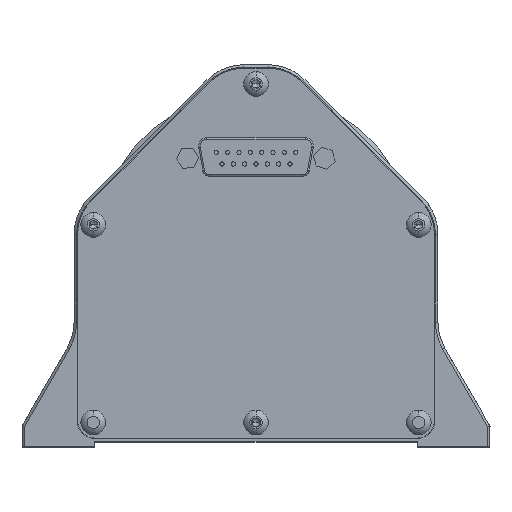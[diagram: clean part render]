
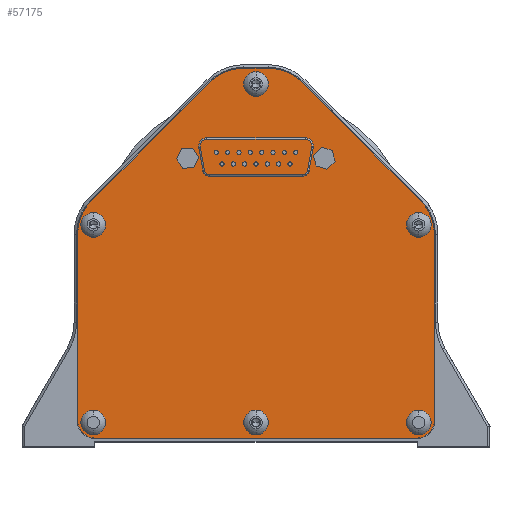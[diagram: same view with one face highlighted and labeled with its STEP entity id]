
A CAD part, top view. The second image highlights one B-rep face of the part: STEP entity #57175.
In plain terms, the highlighted planar face has unit normal (0, 0, 1).
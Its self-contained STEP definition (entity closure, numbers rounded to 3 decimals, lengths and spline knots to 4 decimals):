
#648 = LINE ( 'NONE', #42855, #59649 ) ;
#1739 = EDGE_CURVE ( 'Defeatured_115_12+Defeatured_115_3+Defeatured_115_2+Defeatured_115_4', #17063, #16191, #648, .T. ) ;
#2978 = AXIS2_PLACEMENT_3D ( 'NONE', #89169, #35401, #80404 ) ;
#3124 = DIRECTION ( 'NONE',  ( -1., 0., 0. ) ) ;
#3765 = DIRECTION ( 'NONE',  ( 1., 0., 0. ) ) ;
#4592 = CARTESIAN_POINT ( 'NONE',  ( 1.715, -1.6284, 1.3984 ) ) ;
#4968 = VERTEX_POINT ( 'NONE', #53855 ) ;
#6946 = CARTESIAN_POINT ( 'NONE',  ( 0.1179, 1.7566, 1.3984 ) ) ;
#7233 = VERTEX_POINT ( 'NONE', #70488 ) ;
#7416 = ORIENTED_EDGE ( 'NONE', *, *, #1739, .T. ) ;
#8020 = EDGE_CURVE ( 'Defeatured_115_12+Defeatured_115_0+Defeatured_115_11+Defeatured_115_1', #67972, #7233, #82298, .T. ) ;
#8319 = CARTESIAN_POINT ( 'NONE',  ( -1.545, -1.6284, 1.3984 ) ) ;
#11830 = VECTOR ( 'NONE', #50170, 39.3701 ) ;
#12155 = DIRECTION ( 'NONE',  ( 0., 0., 1. ) ) ;
#13177 = DIRECTION ( 'NONE',  ( 0., 0., 1. ) ) ;
#13330 = VECTOR ( 'NONE', #60167, 39.3701 ) ;
#13370 = DIRECTION ( 'NONE',  ( 1., 0., 0. ) ) ;
#13497 = DIRECTION ( 'NONE',  ( 1., 0., 0. ) ) ;
#13728 = EDGE_CURVE ( 'Defeatured_115_12+Defeatured_115_6+Defeatured_115_5+Defeatured_115_7', #69955, #14049, #58465, .T. ) ;
#14049 = VERTEX_POINT ( 'NONE', #4592 ) ;
#15144 = ORIENTED_EDGE ( 'NONE', *, *, #46906, .T. ) ;
#16191 = VERTEX_POINT ( 'NONE', #58778 ) ;
#17063 = VERTEX_POINT ( 'NONE', #63802 ) ;
#18144 = LINE ( 'NONE', #21198, #13330 ) ;
#18783 = ORIENTED_EDGE ( 'NONE', *, *, #28484, .T. ) ;
#18968 = VERTEX_POINT ( 'NONE', #80901 ) ;
#20578 = ORIENTED_EDGE ( 'NONE', *, *, #94846, .T. ) ;
#20923 = DIRECTION ( 'NONE',  ( 0., 0., 1. ) ) ;
#21198 = CARTESIAN_POINT ( 'NONE',  ( -1.545, -1.7984, 1.3984 ) ) ;
#21271 = DIRECTION ( 'NONE',  ( 1., 0., 0. ) ) ;
#22262 = CARTESIAN_POINT ( 'NONE',  ( 0.4467, 1.6204, 1.3984 ) ) ;
#23241 = CARTESIAN_POINT ( 'NONE',  ( 1.25, 0.1595, 1.3984 ) ) ;
#23384 = LINE ( 'NONE', #71708, #43843 ) ;
#23673 = ORIENTED_EDGE ( 'NONE', *, *, #77668, .T. ) ;
#24318 = VECTOR ( 'NONE', #95972, 39.3701 ) ;
#24922 = VERTEX_POINT ( 'NONE', #22262 ) ;
#26669 = PLANE ( 'NONE',  #2978 ) ;
#27306 = VERTEX_POINT ( 'NONE', #6946 ) ;
#28325 = AXIS2_PLACEMENT_3D ( 'NONE', #23241, #20923, #13497 ) ;
#28484 = EDGE_CURVE ( 'Defeatured_115_12+Defeatured_115_1+Defeatured_115_0+Defeatured_115_2', #7233, #18968, #69615, .T. ) ;
#29271 = CARTESIAN_POINT ( 'NONE',  ( -1.25, 0.1595, 1.3984 ) ) ;
#34731 = EDGE_CURVE ( 'Defeatured_115_12+Defeatured_115_11+Defeatured_115_10+Defeatured_115_0', #27306, #67972, #23384, .T. ) ;
#34928 = CIRCLE ( 'NONE', #49438, 0.465 ) ;
#35401 = DIRECTION ( 'NONE',  ( 0., 0., 1. ) ) ;
#39782 = CARTESIAN_POINT ( 'NONE',  ( 1.545, -1.7984, 1.3984 ) ) ;
#40428 = VERTEX_POINT ( 'NONE', #72481 ) ;
#42855 = CARTESIAN_POINT ( 'NONE',  ( -1.715, 0.1595, 1.3984 ) ) ;
#43011 = FACE_OUTER_BOUND ( 'NONE', #96361, .T. ) ;
#43843 = VECTOR ( 'NONE', #3124, 39.3701 ) ;
#43890 = CIRCLE ( 'NONE', #28325, 0.465 ) ;
#44302 = CIRCLE ( 'NONE', #77044, 0.17 ) ;
#44966 = ORIENTED_EDGE ( 'NONE', *, *, #34731, .T. ) ;
#45638 = CARTESIAN_POINT ( 'NONE',  ( 0.1179, 1.2916, 1.3984 ) ) ;
#46046 = EDGE_CURVE ( 'Defeatured_115_12+Defeatured_115_10+Defeatured_115_9+Defeatured_115_11', #24922, #27306, #34928, .T. ) ;
#46906 = EDGE_CURVE ( 'Defeatured_115_12+Defeatured_115_4+Defeatured_115_3+Defeatured_115_5', #16191, #40428, #44302, .T. ) ;
#47363 = AXIS2_PLACEMENT_3D ( 'NONE', #83621, #60515, #98765 ) ;
#48628 = AXIS2_PLACEMENT_3D ( 'NONE', #29271, #13177, #21271 ) ;
#49438 = AXIS2_PLACEMENT_3D ( 'NONE', #45638, #52354, #13370 ) ;
#49967 = CARTESIAN_POINT ( 'NONE',  ( 1.5788, 0.4883, 1.3984 ) ) ;
#50170 = DIRECTION ( 'NONE',  ( -0.707, -0.707, 0. ) ) ;
#50882 = EDGE_CURVE ( 'Defeatured_115_12+Defeatured_115_7+Defeatured_115_6+Defeatured_115_8', #14049, #73621, #83131, .T. ) ;
#52354 = DIRECTION ( 'NONE',  ( 0., 0., 1. ) ) ;
#53855 = CARTESIAN_POINT ( 'NONE',  ( 1.5788, 0.4883, 1.3984 ) ) ;
#55170 = EDGE_CURVE ( 'Defeatured_115_12+Defeatured_115_2+Defeatured_115_1+Defeatured_115_3', #18968, #17063, #91414, .T. ) ;
#57175 = ADVANCED_FACE ( 'Defeatured_115_12', ( #43011 ), #26669, .T. ) ;
#58465 = CIRCLE ( 'NONE', #47363, 0.17 ) ;
#58730 = DIRECTION ( 'NONE',  ( 0., -1., 0. ) ) ;
#58778 = CARTESIAN_POINT ( 'NONE',  ( -1.715, -1.6284, 1.3984 ) ) ;
#59649 = VECTOR ( 'NONE', #58730, 39.3701 ) ;
#60167 = DIRECTION ( 'NONE',  ( 1., 0., 0. ) ) ;
#60515 = DIRECTION ( 'NONE',  ( 0., 0., 1. ) ) ;
#60660 = CARTESIAN_POINT ( 'NONE',  ( 1.715, -1.6284, 1.3984 ) ) ;
#62126 = DIRECTION ( 'NONE',  ( 1., 0., 0. ) ) ;
#63802 = CARTESIAN_POINT ( 'NONE',  ( -1.715, 0.1595, 1.3984 ) ) ;
#65395 = ORIENTED_EDGE ( 'NONE', *, *, #46046, .T. ) ;
#67506 = AXIS2_PLACEMENT_3D ( 'NONE', #73325, #12155, #3765 ) ;
#67972 = VERTEX_POINT ( 'NONE', #71178 ) ;
#68680 = DIRECTION ( 'NONE',  ( 0., 1., 0. ) ) ;
#69615 = LINE ( 'NONE', #95518, #11830 ) ;
#69955 = VERTEX_POINT ( 'NONE', #39782 ) ;
#70488 = CARTESIAN_POINT ( 'NONE',  ( -0.4467, 1.6204, 1.3984 ) ) ;
#71178 = CARTESIAN_POINT ( 'NONE',  ( -0.1179, 1.7566, 1.3984 ) ) ;
#71708 = CARTESIAN_POINT ( 'NONE',  ( 0.1179, 1.7566, 1.3984 ) ) ;
#72481 = CARTESIAN_POINT ( 'NONE',  ( -1.545, -1.7984, 1.3984 ) ) ;
#73325 = CARTESIAN_POINT ( 'NONE',  ( -0.1179, 1.2916, 1.3984 ) ) ;
#73621 = VERTEX_POINT ( 'NONE', #80001 ) ;
#76590 = ORIENTED_EDGE ( 'NONE', *, *, #55170, .T. ) ;
#76698 = ORIENTED_EDGE ( 'NONE', *, *, #8020, .T. ) ;
#77044 = AXIS2_PLACEMENT_3D ( 'NONE', #8319, #78131, #62126 ) ;
#77543 = ORIENTED_EDGE ( 'NONE', *, *, #50882, .T. ) ;
#77668 = EDGE_CURVE ( 'Defeatured_115_12+Defeatured_115_8+Defeatured_115_7+Defeatured_115_9', #73621, #4968, #43890, .T. ) ;
#78131 = DIRECTION ( 'NONE',  ( 0., 0., 1. ) ) ;
#80001 = CARTESIAN_POINT ( 'NONE',  ( 1.715, 0.1595, 1.3984 ) ) ;
#80404 = DIRECTION ( 'NONE',  ( 1., 0., 0. ) ) ;
#80901 = CARTESIAN_POINT ( 'NONE',  ( -1.5788, 0.4883, 1.3984 ) ) ;
#82057 = LINE ( 'NONE', #49967, #24318 ) ;
#82298 = CIRCLE ( 'NONE', #67506, 0.465 ) ;
#83131 = LINE ( 'NONE', #60660, #93937 ) ;
#83621 = CARTESIAN_POINT ( 'NONE',  ( 1.545, -1.6284, 1.3984 ) ) ;
#85561 = ORIENTED_EDGE ( 'NONE', *, *, #13728, .T. ) ;
#89169 = CARTESIAN_POINT ( 'NONE',  ( -0.1179, 1.2916, 1.3984 ) ) ;
#91414 = CIRCLE ( 'NONE', #48628, 0.465 ) ;
#93937 = VECTOR ( 'NONE', #68680, 39.3701 ) ;
#94846 = EDGE_CURVE ( 'Defeatured_115_12+Defeatured_115_9+Defeatured_115_8+Defeatured_115_10', #4968, #24922, #82057, .T. ) ;
#95518 = CARTESIAN_POINT ( 'NONE',  ( -0.4467, 1.6204, 1.3984 ) ) ;
#95954 = EDGE_CURVE ( 'Defeatured_115_12+Defeatured_115_5+Defeatured_115_4+Defeatured_115_6', #40428, #69955, #18144, .T. ) ;
#95972 = DIRECTION ( 'NONE',  ( -0.707, 0.707, 0. ) ) ;
#96361 = EDGE_LOOP ( 'NONE', ( #76698, #18783, #76590, #7416, #15144, #97849, #85561, #77543, #23673, #20578, #65395, #44966 ) ) ;
#97849 = ORIENTED_EDGE ( 'NONE', *, *, #95954, .T. ) ;
#98765 = DIRECTION ( 'NONE',  ( 1., 0., 0. ) ) ;
